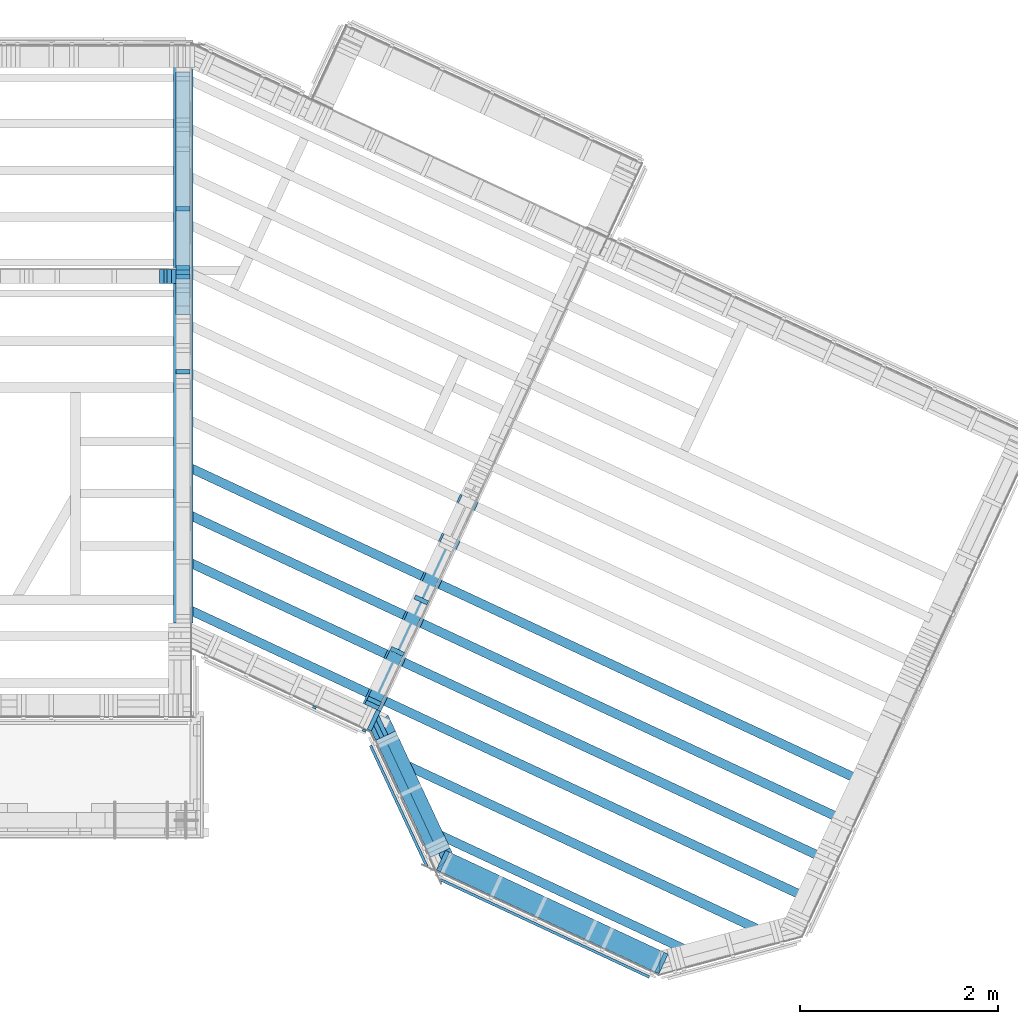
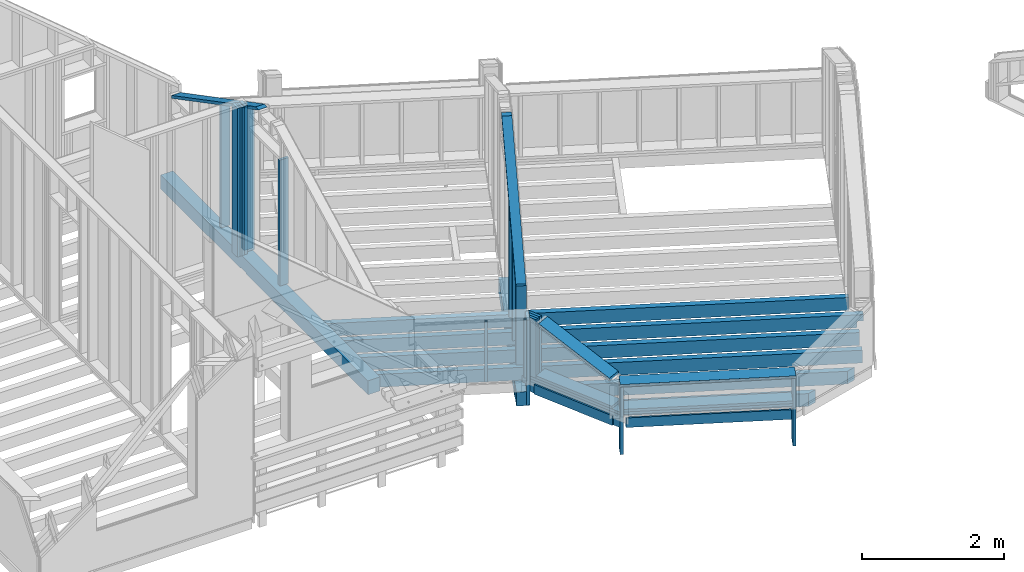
# One storey, part 7 of 24: 40 members.
"""IFC2X3 building model written with IfcOpenShell, lengths in metres."""

from ifc_helpers import new_model, si_unit, direction, frame, origin_with_axes, place, context, subcontext, project, spatial, faceted_brep, material, element, save


model = new_model("IFC2X3")

# Units and contexts
model_context = context("Model", 3, precision=1e-06, world=origin_with_axes(), true_north=direction((0.0, 1.0, 0.0)))
body_context = subcontext(model_context, "Body", "Model", "MODEL_VIEW")
ifc_project = project(units=[si_unit("LENGTHUNIT", "METRE"), si_unit("AREAUNIT", "SQUARE_METRE"), si_unit("VOLUMEUNIT", "CUBIC_METRE"), si_unit("PLANEANGLEUNIT", "RADIAN")], contexts=[model_context])

# Site, building, storey
site_placement = place(None, origin_with_axes())
site = spatial("IfcSite", under=ifc_project, at=site_placement, CompositionType="ELEMENT")
building_placement = place(site_placement, origin_with_axes())
building = spatial("IfcBuilding", under=site, at=building_placement, Name="Building 1", CompositionType="ELEMENT")
storey_placement = place(building_placement, origin_with_axes())
storey = spatial("IfcBuildingStorey", under=building, at=storey_placement, Name="Premier Etage", CompositionType="ELEMENT", Elevation=0.0)

# Members
ifc_material_1 = material(Name="NH II")
member_1_placement = place(storey_placement, frame((8.5229595, 0.8124524, 2.7225), z_axis=(0.0, 0.0, -1.0), x_axis=(0.4226183, -0.9063078, 0.0)))
element("IfcMember", 1, at=member_1_placement, inside=storey, material=ifc_material_1, Name="contre poutre", context=body_context, shape_type="Brep", body=[
    faceted_brep([(1.3491943, 0.0135, -0.0825), (1.3491943, 0.0135, 0.0825), (1.3491943, -0.0135, 0.0825), (1.3491943, -0.0135, -0.0825), (0.0, 0.0135, 0.0825), (0.0, 0.0135, -0.0825), (0.0, -0.0135, -0.0825), (0.0, -0.0135, 0.0825)], [[[0, 1, 2, 3]], [[4, 5, 6, 7]], [[3, 6, 5, 0]], [[2, 7, 6, 3]], [[1, 4, 7, 2]], [[0, 5, 4, 1]]]),
])
ifc_material_2 = material(Name="Epicéa C24")
member_2_placement = place(storey_placement, frame((9.2357429, -0.3475453, 3.3011496), z_axis=(0.4226183, 0.9063078, 0.0), x_axis=(0.9063078, -0.4226183, 0.0)))
element("IfcMember", 2, at=member_2_placement, inside=storey, material=ifc_material_2, Name="Montant", context=body_context, shape_type="Brep", body=[
    faceted_brep([(2.4876379, 0.0225, 0.11), (2.4876379, -0.0225, 0.11), (2.4876379, -0.0225, -0.11), (2.4876379, 0.0225, -0.11), (0.0, -0.0225, -0.11), (0.0, -0.0225, 0.11), (0.0, 0.0225, -0.11), (0.0, 0.0225, 0.11)], [[[0, 1, 2, 3]], [[4, 2, 1, 5]], [[6, 3, 2, 4]], [[7, 0, 3, 6]], [[5, 1, 0, 7]], [[5, 7, 6, 4]]]),
])
member_3_placement = place(storey_placement, frame((8.5156663, 1.1061215, 2.695), z_axis=(0.0, 0.0, -1.0), x_axis=(0.4226183, -0.9063078, 0.0)))
element("IfcMember", 3, at=member_3_placement, inside=storey, material=ifc_material_1, Name="Ceinture", context=body_context, shape_type="Brep", body=[
    faceted_brep([(0.2527679, -0.046, 0.0), (0.1431266, 0.046, 0.0), (0.0, 0.046, 0.0), (0.1096413, -0.046, 0.0), (0.1431266, 0.046, 0.11), (0.2527679, -0.046, 0.11), (1.6152966, -0.046, 0.11), (1.6924937, 0.046, 0.11), (1.6924937, 0.046, -0.11), (0.0, 0.046, -0.11), (0.1096413, -0.046, -0.11), (1.6152966, -0.046, -0.11)], [[[0, 1, 2, 3]], [[4, 1, 0, 5]], [[4, 5, 6, 7]], [[8, 9, 2, 1, 4, 7]], [[5, 0, 3, 10, 11, 6]], [[3, 2, 9, 10]], [[10, 9, 8, 11]], [[8, 7, 6, 11]]]),
])
member_4_placement = place(storey_placement, frame((6.6235, 5.6044744, 5.3470727), z_axis=(1.0, 0.0, 0.0), x_axis=(0.0, 0.0, -1.0)))
element("IfcMember", 4, at=member_4_placement, inside=storey, material=ifc_material_2, Name="Montant", context=body_context, shape_type="Brep", body=[
    faceted_brep([(0.0, -0.0225, -0.0725), (0.0, -0.0225, 0.0725), (0.0235466, 0.0225, 0.0725), (0.0235466, 0.0225, -0.0725), (2.4520727, -0.0225, 0.0725), (2.4520727, 0.0225, 0.0725), (2.4520727, -0.0225, -0.0725), (2.4520727, 0.0225, -0.0725)], [[[0, 1, 2, 3]], [[2, 1, 4, 5]], [[1, 0, 6, 4]], [[0, 3, 7, 6]], [[3, 2, 5, 7]], [[6, 7, 5, 4]]]),
])
member_5_placement = place(storey_placement, frame((6.4108532, 5.5627176, 5.4543053), z_axis=(0.0, 1.0, 0.0), x_axis=(0.0, 0.0, -1.0)))
element("IfcMember", 5, at=member_5_placement, inside=storey, material=ifc_material_2, Name="Montant", context=body_context, shape_type="Brep", body=[
    faceted_brep([(2.5593053, -0.0225, -0.0725), (2.5593053, 0.0225, -0.0725), (2.5593053, 0.0225, 0.0725), (2.5593053, -0.0225, 0.0725), (0.0, 0.0225, -0.0725), (0.0, 0.0225, 0.0725), (0.0, -0.0225, -0.0725), (0.0, -0.0225, 0.0725)], [[[0, 1, 2, 3]], [[2, 1, 4, 5]], [[1, 0, 6, 4]], [[0, 3, 7, 6]], [[3, 2, 5, 7]], [[7, 5, 4, 6]]]),
])
member_6_placement = place(storey_placement, frame((8.5406789, 1.2216355, 4.2547845), z_axis=(0.9063078, -0.4226183, 0.0), x_axis=(0.0, 0.0, -1.0)))
element("IfcMember", 6, at=member_6_placement, inside=storey, material=ifc_material_2, Name="Montant", context=body_context, shape_type="Brep", body=[
    faceted_brep([(0.0, 0.0225, -0.0725), (0.0, -0.0225, -0.0725), (0.0, -0.0225, 0.0725), (0.0, 0.0225, 0.0725), (1.3597845, -0.0225, -0.0725), (1.3597845, -0.0225, 0.0725), (1.3597845, 0.0225, -0.0725), (1.3597845, 0.0225, 0.0725)], [[[0, 1, 2, 3]], [[2, 1, 4, 5]], [[1, 0, 6, 4]], [[0, 3, 7, 6]], [[3, 2, 5, 7]], [[4, 6, 7, 5]]]),
])
member_7_placement = place(storey_placement, frame((6.6235, 5.5594744, 5.3706193), z_axis=(1.0, 0.0, 0.0), x_axis=(0.0, 0.0, -1.0)))
element("IfcMember", 7, at=member_7_placement, inside=storey, material=ifc_material_2, Name="Montant", context=body_context, shape_type="Brep", body=[
    faceted_brep([(0.0, -0.0225, -0.0725), (0.0, -0.0225, 0.0725), (0.0235466, 0.0225, 0.0725), (0.0235466, 0.0225, -0.0725), (2.4756193, -0.0225, 0.0725), (2.4756193, 0.0225, 0.0725), (2.4756193, -0.0225, -0.0725), (2.4756193, 0.0225, -0.0725)], [[[0, 1, 2, 3]], [[2, 1, 4, 5]], [[1, 0, 6, 4]], [[0, 3, 7, 6]], [[3, 2, 5, 7]], [[6, 7, 5, 4]]]),
])
member_8_placement = place(storey_placement, frame((6.5285, 5.5627176, 5.4543053), z_axis=(0.0, 1.0, 0.0), x_axis=(0.0, 0.0, -1.0)))
element("IfcMember", 8, at=member_8_placement, inside=storey, material=ifc_material_2, Name="Montant", context=body_context, shape_type="Brep", body=[
    faceted_brep([(2.5593053, -0.0225, -0.0725), (2.5593053, 0.0225, -0.0725), (2.5593053, 0.0225, 0.0725), (2.5593053, -0.0225, 0.0725), (0.0, 0.0225, -0.0725), (0.0, 0.0225, 0.0725), (0.0, -0.0225, -0.0725), (0.0, -0.0225, 0.0725)], [[[0, 1, 2, 3]], [[2, 1, 4, 5]], [[1, 0, 6, 4]], [[0, 3, 7, 6]], [[3, 2, 5, 7]], [[7, 5, 4, 6]]]),
])
member_9_placement = place(storey_placement, frame((9.2261611, -0.5433403, 2.7225), z_axis=(0.0, 0.0, -1.0), x_axis=(0.9063078, -0.4226183, 0.0)))
element("IfcMember", 9, at=member_9_placement, inside=storey, material=ifc_material_1, Name="contre poutre", context=body_context, shape_type="Brep", body=[
    faceted_brep([(2.3395128, 0.0135, -0.0825), (2.3395128, 0.0135, 0.0825), (2.3395128, -0.0135, 0.0825), (2.3395128, -0.0135, -0.0825), (0.0, 0.0135, 0.0825), (0.0, 0.0135, -0.0825), (0.0, -0.0135, -0.0825), (0.0, -0.0135, 0.0825)], [[[0, 1, 2, 3]], [[4, 5, 6, 7]], [[3, 6, 5, 0]], [[2, 7, 6, 3]], [[1, 4, 7, 2]], [[0, 5, 4, 1]]]),
])
member_10_placement = place(storey_placement, frame((8.6003174, 1.0760236, 2.8275), z_axis=(-0.9063078, -0.4226183, 0.0), x_axis=(0.4226183, -0.9063078, 0.0)))
element("IfcMember", 10, at=member_10_placement, inside=storey, material=ifc_material_2, Name="Lisse basse", context=body_context, shape_type="Brep", body=[
    faceted_brep([(0.0800735, 0.0225, 0.11), (0.0, 0.0225, -0.11), (0.0, -0.0225, -0.11), (0.0800735, -0.0225, 0.11), (1.5493671, 0.0225, -0.11), (1.5493671, -0.0225, -0.11), (1.6294406, 0.0225, 0.11), (1.6294406, -0.0225, 0.11)], [[[0, 1, 2, 3]], [[2, 1, 4, 5]], [[1, 0, 6, 4]], [[4, 6, 7, 5]], [[0, 3, 7, 6]], [[3, 2, 5, 7]]]),
])
member_11_placement = place(storey_placement, frame((8.6925602, 0.8782082, 3.7893151), z_axis=(0.9063078, 0.4226183, 0.0), x_axis=(0.3962138, -0.8496831, -0.347927)))
element("IfcMember", 11, at=member_11_placement, inside=storey, material=ifc_material_2, Name="Montant", context=body_context, shape_type="Brep", body=[
    faceted_brep([(1.314733, 0.0225, 0.11), (1.2980329, -0.0225, 0.11), (1.2980329, -0.0225, -0.11), (1.314733, 0.0225, -0.11), (0.0, -0.0225, 0.11), (0.0, -0.0225, -0.11), (0.0167001, 0.0225, 0.11), (0.0167001, 0.0225, -0.11)], [[[0, 1, 2, 3]], [[2, 1, 4, 5]], [[1, 0, 6, 4]], [[5, 4, 6, 7]], [[0, 3, 7, 6]], [[3, 2, 5, 7]]]),
])
member_12_placement = place(storey_placement, frame((11.4699165, -1.3893576, 3.2786496), z_axis=(-0.4226183, -0.9063078, 0.0), x_axis=(0.0, 0.0, -1.0)))
element("IfcMember", 12, at=member_12_placement, inside=storey, material=ifc_material_2, Name="Montant", context=body_context, shape_type="Brep", body=[
    faceted_brep([(1.16, 0.0225, 0.11), (0.0, 0.0225, 0.11), (0.0, -0.0225, 0.11), (1.16, -0.0225, 0.11), (0.0, -0.0225, -0.11), (0.0, 0.0225, -0.11), (1.16, -0.0225, -0.11), (1.16, 0.0225, -0.11)], [[[0, 1, 2, 3]], [[4, 2, 1, 5]], [[4, 6, 3, 2]], [[5, 7, 6, 4]], [[1, 0, 7, 5]], [[3, 6, 7, 0]]]),
])
member_13_placement = place(storey_placement, frame((6.4835, 5.5627176, 5.4451096), z_axis=(0.0, 1.0, 0.0), x_axis=(0.0, 0.0, -1.0)))
element("IfcMember", 13, at=member_13_placement, inside=storey, material=ifc_material_2, Name="Montant", context=body_context, shape_type="Brep", body=[
    faceted_brep([(0.0, 0.0225, 0.0725), (0.0, 0.0225, -0.0725), (0.0109799, -0.0225, -0.0725), (0.0109799, -0.0225, 0.0725), (2.5501096, 0.0225, -0.0725), (2.5501096, -0.0225, -0.0725), (2.5501096, 0.0225, 0.0725), (2.5501096, -0.0225, 0.0725)], [[[0, 1, 2, 3]], [[2, 1, 4, 5]], [[1, 0, 6, 4]], [[5, 4, 6, 7]], [[3, 2, 5, 7]], [[0, 3, 7, 6]]]),
])
member_14_placement = place(storey_placement, frame((8.5566017, 1.068013, 3.8136408), z_axis=(-0.4226183, -0.9063078, 0.0), x_axis=(0.0, 0.0, -1.0)))
element("IfcMember", 14, at=member_14_placement, inside=storey, material=ifc_material_2, Name="Montant", context=body_context, shape_type="Brep", body=[
    faceted_brep([(1.4636408, 0.0225, 0.11), (0.0, 0.0225, 0.11), (0.0, -0.0225, 0.11), (1.4636408, -0.0225, 0.11), (0.0, -0.0225, -0.11), (0.0, 0.0225, -0.11), (1.4636408, -0.0225, -0.11), (1.4636408, 0.0225, -0.11)], [[[0, 1, 2, 3]], [[4, 2, 1, 5]], [[4, 6, 3, 2]], [[5, 7, 6, 4]], [[1, 0, 7, 5]], [[3, 6, 7, 0]]]),
])
member_15_placement = place(storey_placement, frame((6.4471766, 5.5627176, 5.4518553), z_axis=(0.0, 1.0, 0.0), x_axis=(0.0, 0.0, -1.0)))
element("IfcMember", 15, at=member_15_placement, inside=storey, material=ifc_material_2, Name="Montant", context=body_context, shape_type="Brep", body=[
    faceted_brep([(0.0, 0.0138234, -0.0725), (0.0, 0.0138234, 0.0725), (2.5568553, 0.0138234, 0.0725), (2.5568553, 0.0138234, -0.0725), (0.0067458, -0.0138234, 0.0725), (2.5568553, -0.0138234, 0.0725), (0.0067458, -0.0138234, -0.0725), (2.5568553, -0.0138234, -0.0725)], [[[0, 1, 2, 3]], [[2, 1, 4, 5]], [[1, 0, 6, 4]], [[4, 6, 7, 5]], [[0, 3, 7, 6]], [[3, 2, 5, 7]]]),
])
member_16_placement = place(storey_placement, frame((8.7942499, 1.7654201, 4.5492332), z_axis=(0.9063078, -0.4226183, 0.0), x_axis=(0.0, 0.0, -1.0)))
element("IfcMember", 16, at=member_16_placement, inside=storey, material=ifc_material_2, Name="Montant", context=body_context, shape_type="Brep", body=[
    faceted_brep([(0.0259808, -0.0225, -0.0725), (0.0259808, -0.0225, 0.0725), (0.0, 0.0225, 0.0725), (0.0, 0.0225, -0.0725), (1.6542332, -0.0225, 0.0725), (1.6542332, 0.0225, 0.0725), (1.6542332, -0.0225, -0.0725), (1.6542332, 0.0225, -0.0725)], [[[0, 1, 2, 3]], [[2, 1, 4, 5]], [[1, 0, 6, 4]], [[6, 7, 5, 4]], [[0, 3, 7, 6]], [[3, 2, 5, 7]]]),
])
member_17_placement = place(storey_placement, frame((9.0374667, 2.2870003, 4.8814983), z_axis=(0.9063078, -0.4226183, 0.0), x_axis=(0.0, 0.0, -1.0)))
element("IfcMember", 17, at=member_17_placement, inside=storey, material=ifc_material_2, Name="Montant", context=body_context, shape_type="Brep", body=[
    faceted_brep([(1.9864983, -0.0225, 0.0725), (1.9864983, 0.0225, 0.0725), (0.0, 0.0225, 0.0725), (0.0259808, -0.0225, 0.0725), (0.0259808, -0.0225, -0.0725), (0.0, 0.0225, -0.0725), (1.9864983, -0.0225, -0.0725), (1.9864983, 0.0225, -0.0725)], [[[0, 1, 2, 3]], [[4, 3, 2, 5]], [[3, 4, 6, 0]], [[6, 7, 1, 0]], [[4, 5, 7, 6]], [[5, 2, 1, 7]]]),
])
member_18_placement = place(storey_placement, frame((6.6235, 6.2494744, 5.009572), z_axis=(1.0, 0.0, 0.0), x_axis=(0.0, 0.0, -1.0)))
element("IfcMember", 18, at=member_18_placement, inside=storey, material=ifc_material_2, Name="Montant", context=body_context, shape_type="Brep", body=[
    faceted_brep([(0.0, -0.0225, 0.0725), (0.0235466, 0.0225, 0.0725), (0.0235466, 0.0225, -0.0725), (0.0, -0.0225, -0.0725), (2.114572, 0.0225, 0.0725), (2.114572, 0.0225, -0.0725), (2.114572, -0.0225, 0.0725), (2.114572, -0.0225, -0.0725)], [[[0, 1, 2, 3]], [[2, 1, 4, 5]], [[1, 0, 6, 4]], [[0, 3, 7, 6]], [[7, 5, 4, 6]], [[3, 2, 5, 7]]]),
])
member_19_placement = place(storey_placement, frame((6.6235, 5.6494744, 5.3235262), z_axis=(1.0, 0.0, 0.0), x_axis=(0.0, 0.0, -1.0)))
element("IfcMember", 19, at=member_19_placement, inside=storey, material=ifc_material_2, Name="Montant", context=body_context, shape_type="Brep", body=[
    faceted_brep([(0.0, -0.0225, 0.0725), (0.0235466, 0.0225, 0.0725), (0.0235466, 0.0225, -0.0725), (0.0, -0.0225, -0.0725), (2.4285262, 0.0225, 0.0725), (2.4285262, 0.0225, -0.0725), (2.4285262, -0.0225, 0.0725), (2.4285262, -0.0225, -0.0725)], [[[0, 1, 2, 3]], [[2, 1, 4, 5]], [[1, 0, 6, 4]], [[0, 3, 7, 6]], [[7, 5, 4, 6]], [[3, 2, 5, 7]]]),
])
member_20_placement = place(storey_placement, frame((6.6235, 5.1848883, 5.5802449), z_axis=(-1.0, 0.0, 0.0), x_axis=(0.0, 0.8860327, -0.4636228)))
element("IfcMember", 20, at=member_20_placement, inside=storey, material=ifc_material_2, Name="Montant", context=body_context, shape_type="Brep", body=[
    faceted_brep([(0.0027702, 0.0225, -0.0725), (0.0, 0.0172058, -0.0725), (0.0, 0.0172058, 0.0725), (0.0027702, 0.0225, 0.0725), (0.0758821, -0.0225, -0.0725), (0.0758821, -0.0225, 0.0725), (2.77252, 0.0225, -0.0725), (2.7489734, -0.0225, -0.0725), (2.77252, 0.0225, 0.0725), (2.7489734, -0.0225, 0.0725)], [[[0, 1, 2, 3]], [[2, 1, 4, 5]], [[1, 0, 6, 7, 4]], [[0, 3, 8, 6]], [[3, 2, 5, 9, 8]], [[7, 9, 5, 4]], [[6, 8, 9, 7]]]),
])
member_21_placement = place(storey_placement, frame((9.2765267, -0.3665631, 2.8725), z_axis=(0.4226183, 0.9063078, 0.0), x_axis=(0.9063078, -0.4226183, 0.0)))
element("IfcMember", 21, at=member_21_placement, inside=storey, material=ifc_material_2, Name="Montant", context=body_context, shape_type="Brep", body=[
    faceted_brep([(2.3976379, -0.0225, 0.11), (0.0, -0.0225, 0.11), (0.0, -0.0225, -0.11), (2.3976379, -0.0225, -0.11), (2.3976379, 0.0225, -0.11), (2.3976379, 0.0225, 0.11), (0.0, 0.0225, 0.11), (0.0, 0.0225, -0.11)], [[[0, 1, 2, 3]], [[4, 5, 0, 3]], [[6, 7, 2, 1]], [[5, 6, 1, 0]], [[4, 7, 6, 5]], [[3, 2, 7, 4]]]),
])
member_22_placement = place(storey_placement, frame((8.4587644, 0.9646792, 3.8536408), z_axis=(-0.4226183, -0.9063078, 0.0), x_axis=(0.0, 0.0, -1.0)))
element("IfcMember", 22, at=member_22_placement, inside=storey, material=ifc_material_2, Name="latte 27/40", context=body_context, shape_type="Brep", body=[
    faceted_brep([(1.0036408, -0.02, -0.012), (1.0036408, -0.02, 0.012), (0.0, -0.02, 0.012), (0.0, -0.02, -0.012), (1.0036408, 0.02, -0.012), (0.0, 0.02, -0.012), (1.0036408, 0.02, 0.012), (0.0, 0.02, 0.012)], [[[0, 1, 2, 3]], [[4, 0, 3, 5]], [[6, 4, 5, 7]], [[1, 6, 7, 2]], [[4, 6, 1, 0]], [[2, 7, 5, 3]]]),
])
member_23_placement = place(storey_placement, frame((8.5454334, 1.2318314, 4.2223086), z_axis=(-0.9063078, 0.4226183, 0.0), x_axis=(0.3659982, 0.7848856, 0.5)))
element("IfcMember", 23, at=member_23_placement, inside=storey, material=ifc_material_2, Name="Montant", context=body_context, shape_type="Brep", body=[
    faceted_brep([(0.0, 0.0225, 0.0725), (0.0, 0.0225, -0.0725), (0.0259808, -0.0225, -0.0725), (0.0259808, -0.0225, 0.0725), (2.724354, 0.0225, -0.0725), (2.6464117, -0.0225, -0.0725), (2.724354, 0.0225, 0.0725), (2.6464117, -0.0225, 0.0725)], [[[0, 1, 2, 3]], [[2, 1, 4, 5]], [[1, 0, 6, 4]], [[7, 5, 4, 6]], [[3, 2, 5, 7]], [[0, 3, 7, 6]]]),
])
member_24_placement = place(storey_placement, frame((8.5596967, 1.2624193, 4.2288038), z_axis=(0.9063078, -0.4226183, 0.0), x_axis=(0.0, 0.0, -1.0)))
element("IfcMember", 24, at=member_24_placement, inside=storey, material=ifc_material_2, Name="Montant", context=body_context, shape_type="Brep", body=[
    faceted_brep([(0.0259808, -0.0225, 0.0725), (0.0, 0.0225, 0.0725), (0.0, 0.0225, -0.0725), (0.0259808, -0.0225, -0.0725), (1.3338038, 0.0225, 0.0725), (1.3338038, 0.0225, -0.0725), (1.3338038, -0.0225, 0.0725), (1.3338038, -0.0225, -0.0725)], [[[0, 1, 2, 3]], [[2, 1, 4, 5]], [[1, 0, 6, 4]], [[0, 3, 7, 6]], [[7, 5, 4, 6]], [[3, 2, 5, 7]]]),
])
member_25_placement = place(storey_placement, frame((8.6768508, 0.9118972, 2.8725), z_axis=(0.9063078, 0.4226183, 0.0), x_axis=(0.4226183, -0.9063078, 0.0)))
element("IfcMember", 25, at=member_25_placement, inside=storey, material=ifc_material_2, Name="Montant", context=body_context, shape_type="Brep", body=[
    faceted_brep([(0.0, -0.0225, -0.11), (1.3069339, -0.0225, -0.11), (1.3069339, -0.0225, 0.11), (0.0, -0.0225, 0.11), (0.0, 0.0225, -0.11), (1.3069339, 0.0225, -0.11), (1.3069339, 0.0225, 0.11), (0.0, 0.0225, 0.11)], [[[0, 1, 2, 3]], [[4, 5, 1, 0]], [[6, 2, 1, 5]], [[7, 6, 5, 4]], [[3, 2, 6, 7]], [[3, 7, 4, 0]]]),
])
member_26_placement = place(storey_placement, frame((9.2357429, -0.3475453, 2.8275), z_axis=(-0.4226183, -0.9063078, 0.0), x_axis=(0.9063078, -0.4226183, 0.0)))
element("IfcMember", 26, at=member_26_placement, inside=storey, material=ifc_material_2, Name="Lisse basse", context=body_context, shape_type="Brep", body=[
    faceted_brep([(0.0800735, -0.0225, -0.11), (0.0, -0.0225, 0.11), (0.0, 0.0225, 0.11), (0.0800735, 0.0225, -0.11), (2.4075644, -0.0225, -0.11), (2.4876379, -0.0225, 0.11), (2.4876379, 0.0225, 0.11), (2.4075644, 0.0225, -0.11)], [[[0, 1, 2, 3]], [[1, 0, 4, 5]], [[6, 5, 4, 7]], [[1, 5, 6, 2]], [[3, 2, 6, 7]], [[0, 3, 7, 4]]]),
])
member_27_placement = place(storey_placement, frame((8.7216369, 0.6898811, 2.695), z_axis=(0.0, 0.0, -1.0), x_axis=(0.9063078, -0.4226183, 0.0)))
element("IfcMember", 27, at=member_27_placement, inside=storey, material=ifc_material_1, Name="Solive", context=body_context, shape_type="Brep", body=[
    faceted_brep([(0.0, -0.046, -0.11), (0.0, -0.046, 0.11), (0.1096413, 0.046, 0.11), (0.1096413, 0.046, -0.11), (4.296385, -0.046, 0.11), (4.1867437, 0.046, 0.11), (4.296385, -0.046, -0.11), (4.1867437, 0.046, -0.11)], [[[0, 1, 2, 3]], [[2, 1, 4, 5]], [[1, 0, 6, 4]], [[5, 4, 6, 7]], [[3, 2, 5, 7]], [[0, 3, 7, 6]]]),
])
member_28_placement = place(storey_placement, frame((9.2561348, -0.3570542, 3.2786496), z_axis=(-0.4226183, -0.9063078, 0.0), x_axis=(0.0, 0.0, -1.0)))
element("IfcMember", 28, at=member_28_placement, inside=storey, material=ifc_material_2, Name="Montant", context=body_context, shape_type="Brep", body=[
    faceted_brep([(1.16, 0.0225, 0.11), (0.0, 0.0225, 0.11), (0.0, -0.0225, 0.11), (1.16, -0.0225, 0.11), (0.0, -0.0225, -0.11), (0.0, 0.0225, -0.11), (1.16, -0.0225, -0.11), (1.16, 0.0225, -0.11)], [[[0, 1, 2, 3]], [[4, 2, 1, 5]], [[4, 6, 3, 2]], [[5, 7, 6, 4]], [[1, 0, 7, 5]], [[3, 6, 7, 0]]]),
])
member_29_placement = place(storey_placement, frame((8.5998236, 0.9765189, 2.85), z_axis=(-0.4226183, 0.9063078, 0.0), x_axis=(0.0, 0.0, 1.0)))
element("IfcMember", 29, at=member_29_placement, inside=storey, material=ifc_material_2, Name="Montant", context=body_context, shape_type="Brep", body=[
    faceted_brep([(1.0086408, 0.0225, 0.0911203), (1.0086408, -0.0225, 0.0533608), (1.0086408, -0.0225, -0.0911203), (1.0086408, 0.0225, -0.0911203), (0.0, -0.0225, 0.0533608), (0.0, -0.0225, -0.0911203), (0.0, 0.0225, 0.0911203), (0.0, 0.0225, -0.0911203)], [[[0, 1, 2, 3]], [[2, 1, 4, 5]], [[1, 0, 6, 4]], [[0, 3, 7, 6]], [[3, 2, 5, 7]], [[4, 6, 7, 5]]]),
])
member_30_placement = place(storey_placement, frame((8.5670187, 0.9403902, 2.85), z_axis=(-0.4226183, 0.9063078, 0.0), x_axis=(0.0, 0.0, 1.0)))
element("IfcMember", 30, at=member_30_placement, inside=storey, material=ifc_material_2, Name="Montant", context=body_context, shape_type="Brep", body=[
    faceted_brep([(1.0086408, 0.0225, 0.0722405), (1.0086408, -0.0225, 0.034481), (1.0086408, -0.0225, -0.0722405), (1.0086408, 0.0225, -0.0722405), (0.0, -0.0225, 0.034481), (0.0, -0.0225, -0.0722405), (0.0, 0.0225, 0.0722405), (0.0, 0.0225, -0.0722405)], [[[0, 1, 2, 3]], [[2, 1, 4, 5]], [[1, 0, 6, 4]], [[0, 3, 7, 6]], [[3, 2, 5, 7]], [[4, 6, 7, 5]]]),
])
member_31_placement = place(storey_placement, frame((8.6326285, 1.0126476, 2.85), z_axis=(-0.4226183, 0.9063078, 0.0), x_axis=(0.0, 0.0, 1.0)))
element("IfcMember", 31, at=member_31_placement, inside=storey, material=ifc_material_2, Name="Montant", context=body_context, shape_type="Brep", body=[
    faceted_brep([(1.0086408, -0.0225, -0.11), (1.0086408, 0.0225, -0.11), (1.0086408, 0.0225, 0.11), (1.0086408, -0.0225, 0.0722405), (0.0, 0.0225, -0.11), (0.0, 0.0225, 0.11), (0.0, -0.0225, -0.11), (0.0, -0.0225, 0.0722405)], [[[0, 1, 2, 3]], [[2, 1, 4, 5]], [[1, 0, 6, 4]], [[3, 2, 5, 7]], [[0, 3, 7, 6]], [[7, 5, 4, 6]]]),
])
member_32_placement = place(storey_placement, frame((7.9557635, 1.1992324, 3.8536408), z_axis=(-0.4226183, -0.9063078, 0.0), x_axis=(0.0, 0.0, -1.0)))
element("IfcMember", 32, at=member_32_placement, inside=storey, material=ifc_material_2, Name="latte 27/40", context=body_context, shape_type="Brep", body=[
    faceted_brep([(1.0436408, -0.02, 0.012), (0.0, -0.02, 0.012), (0.0, -0.02, -0.012), (1.0436408, -0.02, -0.012), (1.0436408, 0.02, -0.012), (0.0, 0.02, -0.012), (0.0, 0.02, 0.012), (1.0436408, 0.02, 0.012)], [[[0, 1, 2, 3]], [[4, 3, 2, 5]], [[6, 7, 4, 5]], [[0, 7, 6, 1]], [[7, 0, 3, 4]], [[1, 6, 5, 2]]]),
])
member_33_placement = place(storey_placement, frame((9.6419052, 3.5690257, 2.465), z_axis=(0.0, 0.0, -1.0), x_axis=(-0.4226183, -0.9063078, 0.0)))
element("IfcMember", 33, at=member_33_placement, inside=storey, material=ifc_material_1, Name="Poutre Lc", context=body_context, shape_type="Brep", body=[
    faceted_brep([(0.0, 0.1, -0.12), (0.0, -0.0785, -0.12), (0.0, -0.0785, 0.12), (0.0, 0.1, 0.12), (0.135, -0.0785, -0.12), (0.135, -0.0785, 0.12), (2.6153564, 0.1, -0.12), (2.6153564, 0.094, -0.12), (2.8353564, 0.094, -0.12), (2.8353564, -0.094, -0.12), (2.6153564, -0.094, -0.12), (2.6153564, -0.1, -0.12), (0.135, -0.1, -0.12), (2.6153564, 0.1, 0.12), (0.135, -0.1, 0.12), (2.6153564, -0.1, 0.12), (2.6153564, -0.094, 0.12), (2.8353564, -0.094, 0.12), (2.8353564, 0.094, 0.12), (2.6153564, 0.094, 0.12)], [[[0, 1, 2, 3]], [[2, 1, 4, 5]], [[1, 0, 6, 7, 8, 9, 10, 11, 12, 4]], [[0, 3, 13, 6]], [[3, 2, 5, 14, 15, 16, 17, 18, 19, 13]], [[10, 9, 17, 16]], [[11, 10, 16, 15]], [[11, 15, 14, 12]], [[13, 19, 7, 6]], [[19, 18, 8, 7]], [[14, 5, 4, 12]], [[17, 9, 8, 18]]]),
])
member_34_placement = place(storey_placement, frame((6.7085595, 2.1780292, 2.695), z_axis=(0.0, 0.0, -1.0), x_axis=(0.9063078, -0.4226183, 0.0)))
element("IfcMember", 34, at=member_34_placement, inside=storey, material=ifc_material_1, Name="Solive", context=body_context, shape_type="Brep", body=[
    faceted_brep([(0.0, -0.046, -0.11), (0.0, -0.046, 0.11), (0.0429003, 0.046, 0.11), (0.0429003, 0.046, -0.11), (6.8959595, -0.046, 0.11), (6.8959595, 0.046, 0.11), (6.8959595, -0.046, -0.11), (6.8959595, 0.046, -0.11)], [[[0, 1, 2, 3]], [[2, 1, 4, 5]], [[1, 0, 6, 4]], [[0, 3, 7, 6]], [[3, 2, 5, 7]], [[4, 6, 7, 5]]]),
])
member_35_placement = place(storey_placement, frame((6.628, 2.0514744, 2.685), z_axis=(0.0, 0.0, -1.0), x_axis=(0.0, 1.0, 0.0)))
element("IfcMember", 35, at=member_35_placement, inside=storey, material=ifc_material_1, Name="Poutre Lc", context=body_context, shape_type="Brep", body=[
    faceted_brep([(3.5977432, 0.1, 0.12), (3.5977432, 0.1, 0.1), (3.5977432, -0.1, 0.1), (3.5977432, -0.1, 0.12), (3.4367432, 0.1, 0.1), (3.4367432, -0.1, 0.1), (3.4367432, 0.1, 0.12), (3.4367432, -0.1, 0.12), (0.0, -0.1, 0.12), (0.0, -0.1, -0.12), (5.8445257, -0.1, -0.12), (5.8445257, -0.1, 0.12), (0.0, 0.1, 0.12), (5.8445257, 0.1, -0.12), (5.8445257, 0.1, 0.12), (0.0, 0.1, -0.12)], [[[0, 1, 2, 3]], [[1, 4, 5, 2]], [[4, 6, 7, 5]], [[3, 2, 5, 7, 8, 9, 10, 11]], [[7, 6, 12, 8]], [[11, 10, 13, 14]], [[9, 8, 12, 15]], [[0, 3, 11, 14]], [[1, 0, 14, 13, 15, 12, 6, 4]], [[10, 9, 15, 13]]]),
])
member_36_placement = place(storey_placement, frame((6.6235, 4.5977176, 5.061), z_axis=(1.0, 0.0, 0.0), x_axis=(0.0, 0.0, -1.0)))
element("IfcMember", 36, at=member_36_placement, inside=storey, material=ifc_material_2, Name="Montant", context=body_context, shape_type="Brep", body=[
    faceted_brep([(2.166, -0.0225, -0.0725), (2.166, 0.0225, -0.0725), (2.166, 0.0225, 0.0725), (2.166, -0.0225, 0.0725), (0.0, -0.0225, 0.0725), (0.0, -0.0225, -0.0725), (0.0, 0.0225, -0.0725), (0.0, 0.0225, 0.0725)], [[[0, 1, 2, 3]], [[0, 3, 4, 5]], [[1, 0, 5, 6]], [[2, 1, 6, 7]], [[3, 2, 7, 4]], [[4, 7, 6, 5]]]),
])
member_37_placement = place(storey_placement, frame((9.0490323, -0.0122207, 2.695), z_axis=(0.0, 0.0, -1.0), x_axis=(0.9063078, -0.4226183, 0.0)))
element("IfcMember", 37, at=member_37_placement, inside=storey, material=ifc_material_1, Name="Solive", context=body_context, shape_type="Brep", body=[
    faceted_brep([(0.0, -0.046, -0.11), (0.0, -0.046, 0.11), (0.1096413, 0.046, 0.11), (0.1096413, 0.046, -0.11), (3.1095009, -0.046, 0.11), (2.9998596, 0.046, 0.11), (3.1095009, -0.046, -0.11), (2.9998596, 0.046, -0.11)], [[[0, 1, 2, 3]], [[2, 1, 4, 5]], [[1, 0, 6, 4]], [[5, 4, 6, 7]], [[3, 2, 5, 7]], [[0, 3, 7, 6]]]),
])
member_38_placement = place(storey_placement, frame((6.7085595, 2.6582507, 2.695), z_axis=(0.0, 0.0, -1.0), x_axis=(0.9063078, -0.4226183, 0.0)))
element("IfcMember", 38, at=member_38_placement, inside=storey, material=ifc_material_1, Name="Solive", context=body_context, shape_type="Brep", body=[
    faceted_brep([(0.0, -0.046, 0.11), (0.0429003, 0.046, 0.11), (0.0429003, 0.046, -0.11), (0.0, -0.046, -0.11), (7.0989099, 0.046, 0.11), (7.0989099, 0.046, -0.11), (7.0989099, -0.046, 0.11), (7.0989099, -0.046, -0.11)], [[[0, 1, 2, 3]], [[2, 1, 4, 5]], [[1, 0, 6, 4]], [[0, 3, 7, 6]], [[3, 2, 5, 7]], [[6, 7, 5, 4]]]),
])
member_39_placement = place(storey_placement, frame((6.7085595, 3.1384722, 2.695), z_axis=(0.0, 0.0, -1.0), x_axis=(0.9063078, -0.4226183, 0.0)))
element("IfcMember", 39, at=member_39_placement, inside=storey, material=ifc_material_1, Name="Solive", context=body_context, shape_type="Brep", body=[
    faceted_brep([(7.3018602, 0.046, 0.0), (7.3018602, 0.046, 0.11), (7.3018602, -0.046, 0.11), (7.3018602, -0.046, 0.0), (7.3938602, -0.046, 0.0), (7.3938602, 0.046, 0.0), (7.3938602, -0.046, -0.11), (7.3938602, 0.046, -0.11), (0.0, -0.046, 0.11), (0.0, -0.046, -0.11), (0.0429003, 0.046, 0.11), (0.0429003, 0.046, -0.11)], [[[0, 1, 2, 3]], [[0, 3, 4, 5]], [[5, 4, 6, 7]], [[4, 3, 2, 8, 9, 6]], [[2, 1, 10, 8]], [[1, 0, 5, 7, 11, 10]], [[9, 11, 7, 6]], [[8, 10, 11, 9]]]),
])
member_40_placement = place(storey_placement, frame((6.7085595, 3.6186937, 2.695), z_axis=(0.0, 0.0, -1.0), x_axis=(0.9063078, -0.4226183, 0.0)))
element("IfcMember", 40, at=member_40_placement, inside=storey, material=ifc_material_1, Name="Solive", context=body_context, shape_type="Brep", body=[
    faceted_brep([(0.0, -0.046, -0.11), (0.0, -0.046, 0.11), (0.0429003, 0.046, 0.11), (0.0429003, 0.046, -0.11), (7.4288106, -0.046, 0.11), (7.4288106, 0.046, 0.11), (7.4288106, -0.046, -0.11), (7.4288106, 0.046, -0.11)], [[[0, 1, 2, 3]], [[2, 1, 4, 5]], [[1, 0, 6, 4]], [[5, 4, 6, 7]], [[0, 3, 7, 6]], [[3, 2, 5, 7]]]),
])

save(model, "model.ifc")
